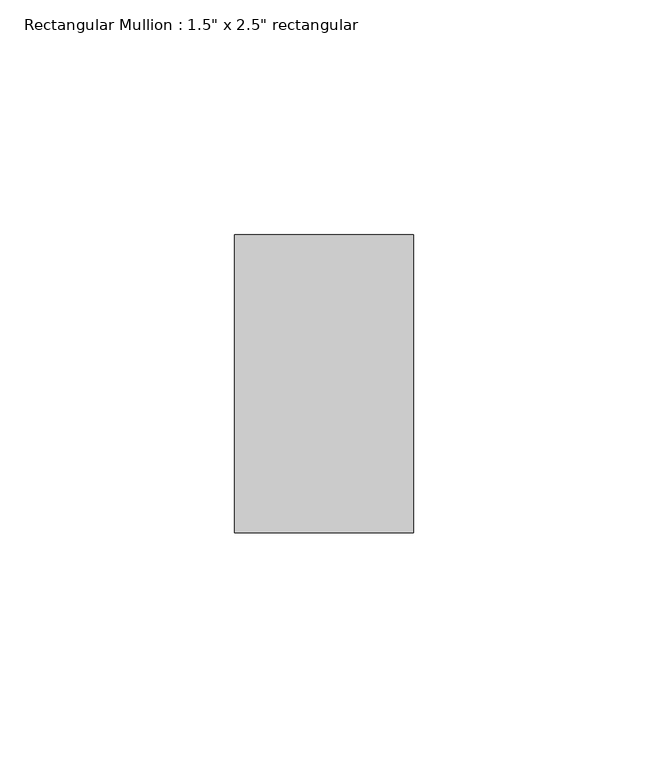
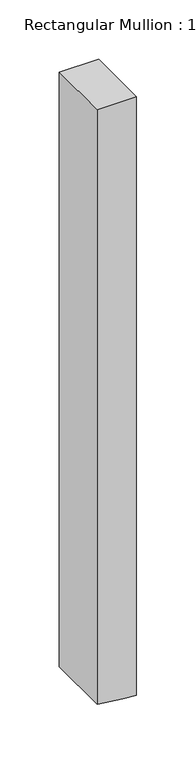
"""IFC4 building model written with IfcOpenShell, lengths in millimetres: member geometry."""

from ifc_helpers import new_model, si_unit, frame, origin, place, context, project, spatial, polyline, outline, extrude, source, transform, mapped, element, save


def member_cde82aea(model_context):
    return source(origin(), model_context, "Body", "SweptSolid", [
        extrude(outline(polyline([(0.0, 19.05), (0.0, -19.05), (-611.568685, -19.05), (-614.3554469, 5.9381936), (-615.3566454, 19.05), (0.0, 19.05)])), frame((0.0, -31.75, 0.0), z_axis=(0.0, 1.0, 0.0), x_axis=(0.0, 0.0, 1.0)), (0.0, 0.0, 1.0), 63.5),
    ])


if __name__ == "__main__":
    model = new_model("IFC4")
    model_context = context("Model", 3, world=origin())
    ifc_project = project(units=[si_unit("LENGTHUNIT", "METRE", prefix="MILLI")], contexts=[model_context])
    site = spatial("IfcSite", under=ifc_project)
    building = spatial("IfcBuilding", under=site)
    placement = place(None, origin())
    member_shape = member_cde82aea(model_context)
    element("IfcMember", 1, ObjectType="Rectangular Mullion : 1.5\" x 2.5\" rectangular", at=placement, inside=building, context=model_context, shape_type="MappedRepresentation", body=[
        mapped(member_shape, transform((0.0, 0.0, 0.0), x_axis=(1.0, 0.0, 0.0), y_axis=(0.0, 1.0, 0.0), z_axis=(0.0, 0.0, 1.0))),
    ])
    save(model, "model.ifc")
